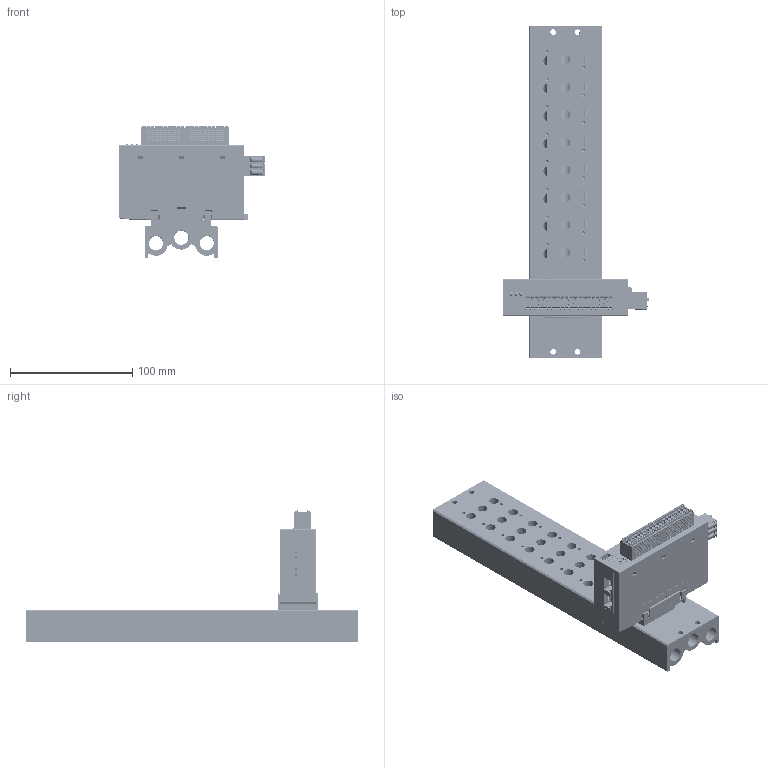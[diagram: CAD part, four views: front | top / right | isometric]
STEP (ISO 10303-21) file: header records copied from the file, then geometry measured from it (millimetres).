
FILE_DESCRIPTION(/* description */ (''),/* implementation_level */ '2;1');
FILE_NAME(/* name */ '',/* time_stamp */ '2025-10-09T15:24:46+08:00',/* author */ (''),/* organization */ (''),/* preprocessor_version */ 'ST-DEVELOPER v14',/* originating_system */ 'SIEMENS PLM Software NX 8.0',/* authorisation */ '');
FILE_SCHEMA (('AP203_CONFIGURATION_CONTROLLED_3D_DESIGN_OF_MECHANICAL_PARTS_AND_ASSEMBLIES_MIM_LF { 1 0 10303 403 2 1 2}'));
Products named in the file (1): DELL3E5857E9ub4l
Bounding box: 119.8 x 271 x 108.48 mm (x, y, z)
Volume: 443721 mm3; surface area: 145501.8 mm2
Topology: 2 solids, 227 shells, 9915 faces, 26272 edges, 17110 vertices
Faces by surface type: plane 6472, cylinder 2277, torus 336, bspline 331, cone 222, extrusion 182, sphere 95
Full cylindrical faces by diameter (mm): 0.18 x2, 2.5 x21, 3.05 x40, 3.3 x3, 3.5 x4, 4 x4, 4.5 x4, 6 x4, 8 x24, 9.6 x1, 11.5 x5, 11.8 x6
Entity records: 327684 total; most frequent: CARTESIAN_POINT 83835, ORIENTED_EDGE 51478, DIRECTION 48485, EDGE_CURVE 25739, VECTOR 18335, LINE 18153, VERTEX_POINT 16976, AXIS2_PLACEMENT_3D 15075
